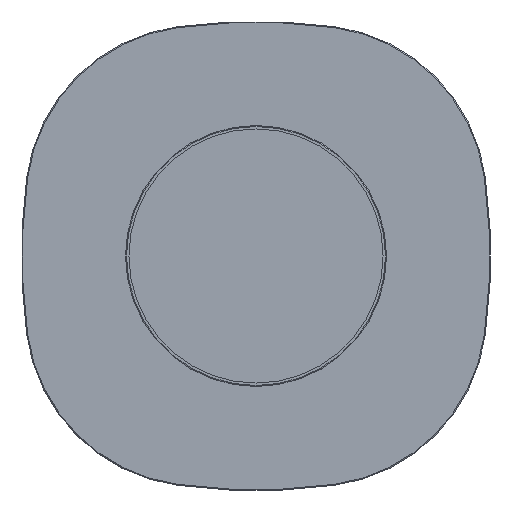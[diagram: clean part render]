
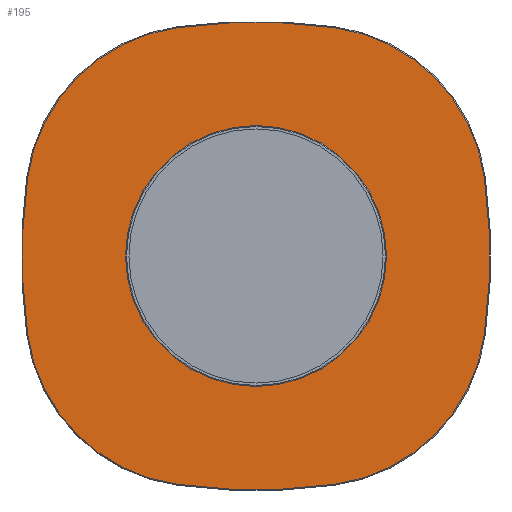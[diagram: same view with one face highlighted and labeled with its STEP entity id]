
A CAD part, front view. The second image highlights one B-rep face of the part: STEP entity #195.
In plain terms, the highlighted planar face has unit normal (0, -1, 0).
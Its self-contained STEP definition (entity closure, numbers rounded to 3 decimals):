
#105=CARTESIAN_POINT('',(0.,757.451,0.));
#106=DIRECTION('',(0.0,1.0,0.0));
#107=DIRECTION('',(0.0,0.0,-1.0));
#108=AXIS2_PLACEMENT_3D('',#105,#106,#107);
#109=PLANE('',#108);
#110=CARTESIAN_POINT('',(233.625,757.451,80.135));
#111=VERTEX_POINT('',#110);
#112=CARTESIAN_POINT('',(233.625,757.451,-80.135));
#113=VERTEX_POINT('',#112);
#114=CARTESIAN_POINT('',(-361.,757.451,0.));
#115=DIRECTION('',(0.,1.0,0.));
#116=DIRECTION('',(0.991,0.,0.134));
#117=AXIS2_PLACEMENT_3D('',#114,#115,#116);
#118=CIRCLE('',#117,600.0);
#119=EDGE_CURVE('',#111,#113,#118,.T.);
#120=ORIENTED_EDGE('',*,*,#119,.F.);
#121=CARTESIAN_POINT('',(80.135,757.451,233.625));
#122=VERTEX_POINT('',#121);
#123=CARTESIAN_POINT('',(56.228,757.451,56.228));
#124=DIRECTION('',(0.,1.0,0.));
#125=DIRECTION('',(0.134,0.,0.991));
#126=AXIS2_PLACEMENT_3D('',#123,#124,#125);
#127=CIRCLE('',#126,179.);
#128=EDGE_CURVE('',#122,#111,#127,.T.);
#129=ORIENTED_EDGE('',*,*,#128,.F.);
#130=CARTESIAN_POINT('',(-80.135,757.451,233.625));
#131=VERTEX_POINT('',#130);
#132=CARTESIAN_POINT('',(0.,757.451,-361.0));
#133=DIRECTION('',(0.,1.0,0.));
#134=DIRECTION('',(-0.134,0.,0.991));
#135=AXIS2_PLACEMENT_3D('',#132,#133,#134);
#136=CIRCLE('',#135,600.0);
#137=EDGE_CURVE('',#131,#122,#136,.T.);
#138=ORIENTED_EDGE('',*,*,#137,.F.);
#139=CARTESIAN_POINT('',(-233.625,757.451,80.135));
#140=VERTEX_POINT('',#139);
#141=CARTESIAN_POINT('',(-56.228,757.451,56.228));
#142=DIRECTION('',(0.,1.0,0.));
#143=DIRECTION('',(-0.991,0.,0.134));
#144=AXIS2_PLACEMENT_3D('',#141,#142,#143);
#145=CIRCLE('',#144,179.);
#146=EDGE_CURVE('',#140,#131,#145,.T.);
#147=ORIENTED_EDGE('',*,*,#146,.F.);
#148=CARTESIAN_POINT('',(-233.625,757.451,-80.135));
#149=VERTEX_POINT('',#148);
#150=CARTESIAN_POINT('',(361.,757.451,0.));
#151=DIRECTION('',(0.,1.0,0.));
#152=DIRECTION('',(-0.991,0.,-0.134));
#153=AXIS2_PLACEMENT_3D('',#150,#151,#152);
#154=CIRCLE('',#153,600.0);
#155=EDGE_CURVE('',#149,#140,#154,.T.);
#156=ORIENTED_EDGE('',*,*,#155,.F.);
#157=CARTESIAN_POINT('',(-80.135,757.451,-233.625));
#158=VERTEX_POINT('',#157);
#159=CARTESIAN_POINT('',(-56.228,757.451,-56.228));
#160=DIRECTION('',(0.,1.0,0.));
#161=DIRECTION('',(-0.134,0.,-0.991));
#162=AXIS2_PLACEMENT_3D('',#159,#160,#161);
#163=CIRCLE('',#162,179.);
#164=EDGE_CURVE('',#158,#149,#163,.T.);
#165=ORIENTED_EDGE('',*,*,#164,.F.);
#166=CARTESIAN_POINT('',(80.135,757.451,-233.625));
#167=VERTEX_POINT('',#166);
#168=CARTESIAN_POINT('',(0.,757.451,361.0));
#169=DIRECTION('',(0.,1.0,0.));
#170=DIRECTION('',(0.134,0.,-0.991));
#171=AXIS2_PLACEMENT_3D('',#168,#169,#170);
#172=CIRCLE('',#171,600.0);
#173=EDGE_CURVE('',#167,#158,#172,.T.);
#174=ORIENTED_EDGE('',*,*,#173,.F.);
#175=CARTESIAN_POINT('',(56.228,757.451,-56.228));
#176=DIRECTION('',(0.,1.0,0.));
#177=DIRECTION('',(0.991,0.,-0.134));
#178=AXIS2_PLACEMENT_3D('',#175,#176,#177);
#179=CIRCLE('',#178,179.);
#180=EDGE_CURVE('',#113,#167,#179,.T.);
#181=ORIENTED_EDGE('',*,*,#180,.F.);
#182=EDGE_LOOP('',(#120,#129,#138,#147,#156,#165,#174,#181));
#183=FACE_OUTER_BOUND('',#182,.T.);
#184=CARTESIAN_POINT('',(0.,757.451,-19.75));
#185=VERTEX_POINT('',#184);
#186=CARTESIAN_POINT('',(0.,757.451,0.));
#187=DIRECTION('',(0.0,-1.0,0.0));
#188=DIRECTION('',(0.0,0.0,1.0));
#189=AXIS2_PLACEMENT_3D('',#186,#187,#188);
#190=CIRCLE('',#189,19.75);
#191=EDGE_CURVE('',#185,#185,#190,.T.);
#192=ORIENTED_EDGE('',*,*,#191,.F.);
#193=EDGE_LOOP('',(#192));
#194=FACE_BOUND('',#193,.T.);
#195=ADVANCED_FACE('',(#183,#194),#109,.F.);
